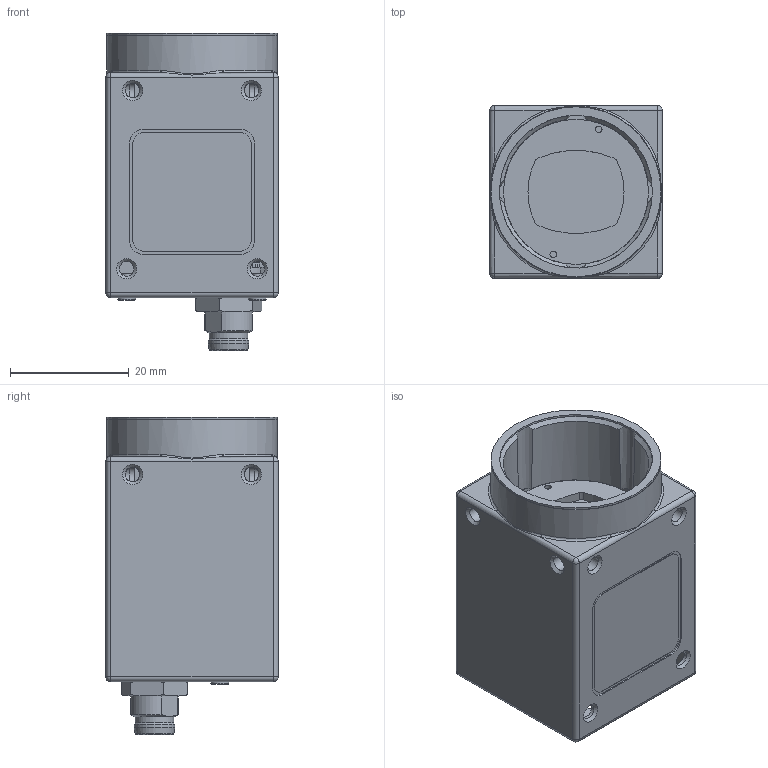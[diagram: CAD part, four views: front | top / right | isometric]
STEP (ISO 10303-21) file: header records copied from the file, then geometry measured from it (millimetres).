
FILE_DESCRIPTION( ( 'Unknown' ), '1' );
FILE_NAME( 'C:/Users/rih/Desktop/11151563_VCXU-23C.stp', '14.10.2014', ( 'Unknown' ), ( 'Unknown' ), 'PSStep 15.0.49', 'Unknown', ' ' );
FILE_SCHEMA( ( 'AUTOMOTIVE_DESIGN { 1 0 10303 214 1 1 1 1 }' ) );
Length unit declared in the file: millimetre
Products named in the file (7): 11104603
Bounding box: 29 x 29 x 53.35 mm (x, y, z)
Volume: 10478.1 mm3; surface area: 16171.4 mm2
Topology: 7 solids, 12 shells, 1551 faces, 4020 edges, 2633 vertices
Faces by surface type: plane 924, cylinder 473, cone 71, torus 27, sphere 24, bspline 24, extrusion 8
Full cylindrical faces by diameter (mm): 0.217 x1, 0.6 x16, 0.7 x1, 0.9 x118, 1.1 x2, 1.4 x4, 1.567 x2, 1.6 x2, 1.9 x4, 2.459 x10, 3 x4, 6.5 x1, 6.9 x1, 8.4 x1, 9 x1, 9.4 x1, 19 x1, 24.4 x1, 25.7 x1, 26 x1, 28.6 x1, 28.7 x1
Entity records: 63704 total; most frequent: CARTESIAN_POINT 12103, DIRECTION 7380, ORIENTED_EDGE 7126, EDGE_CURVE 3563, AXIS2_PLACEMENT_3D 2625, VERTEX_POINT 2442, PRESENTATION_STYLE_ASSIGNMENT 2220, COLOUR_RGB 2220
